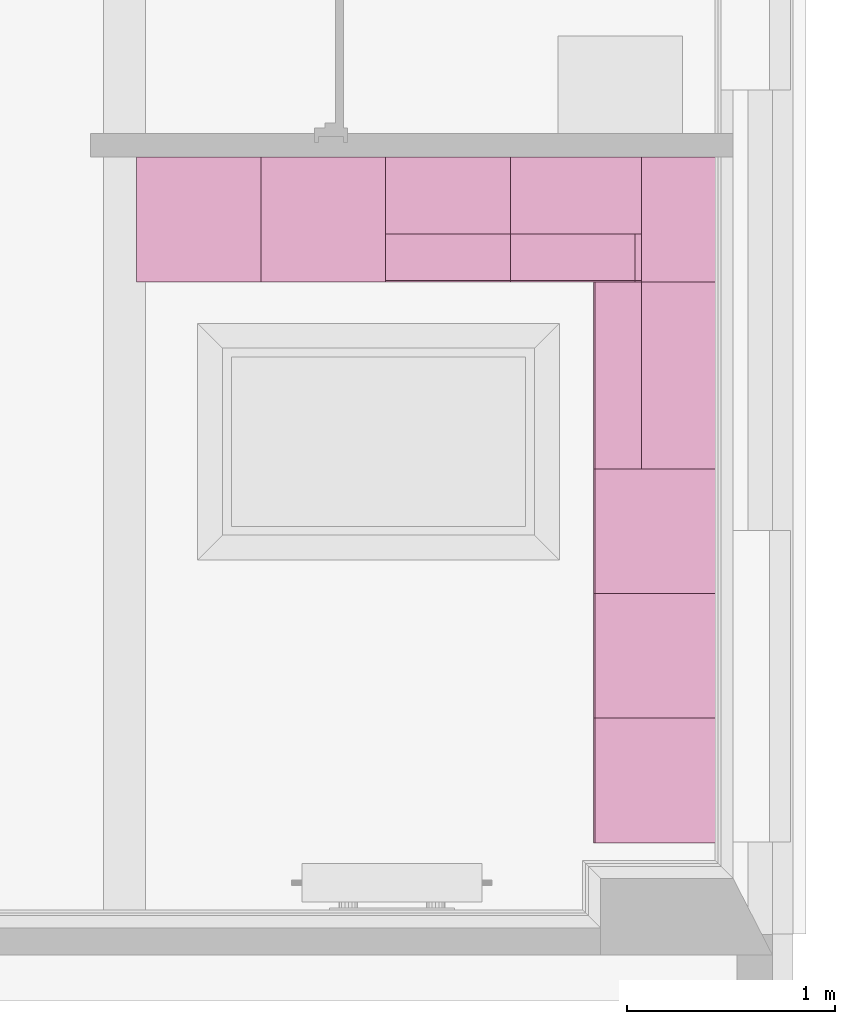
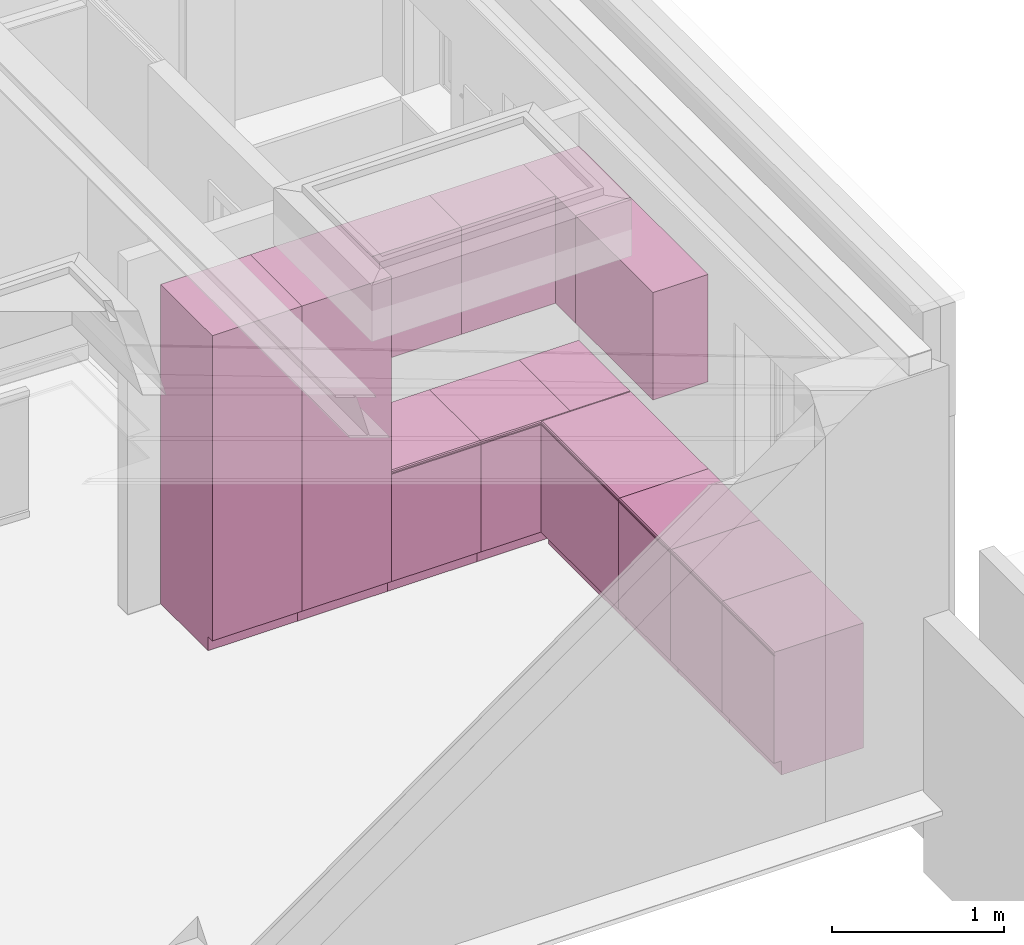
# One storey, part 23 of 23: 13 furnishings.
"""IFC2X3 building model written with IfcOpenShell, lengths in metres."""

import ifcopenshell
import ifcopenshell.guid

model = None  # the IFC model being written
_history = None  # IfcOwnerHistory: only IFC2X3 demands one
_inside = {}  # id of a spatial element -> (the spatial element, [elements in it])
_under = {}  # id of a project, library or spatial element -> (it, [spatial elements below it])
_declared = {}  # id of a project -> (the project, [libraries it declares])
_typed = {}  # id of a type object -> (the type object, [elements of that type])
_made_of = {}  # id of a material, layer set ... -> (it, [elements and type objects made of it])


def new_model(schema):
    """Start an empty IFC model of exactly this schema.

    Asked for "IFC4X3", IfcOpenShell would pick the latest addendum, in which some entities
    have other attributes; the version numbers below select the first issue.
    IFC2X3 requires an IfcOwnerHistory on every rooted entity: one is made here for all.
    """
    global model, _history
    if schema == "IFC4X3":
        model = ifcopenshell.file(schema_version=(4, 3, 0, 0))
    else:
        model = ifcopenshell.file(schema=schema)
    _inside.clear()
    _under.clear()
    _declared.clear()
    _typed.clear()
    _made_of.clear()
    _history = None
    if model.schema == "IFC2X3":
        org = make("IfcOrganization", Name="unknown")
        user = make(
            "IfcPersonAndOrganization",
            ThePerson=make("IfcPerson", FamilyName="unknown"),
            TheOrganization=org,
        )
        app = make(
            "IfcApplication",
            ApplicationDeveloper=org,
            Version="unknown",
            ApplicationFullName="unknown",
            ApplicationIdentifier="unknown",
        )
        _history = make(
            "IfcOwnerHistory",
            OwningUser=user,
            OwningApplication=app,
            ChangeAction="ADDED",
            CreationDate=0,
        )
    return model


def make(cls, **values):
    """One entity of the class cls with the attributes given. An attribute that is None is left unset."""
    return model.create_entity(
        cls, **{name: value for name, value in values.items() if value is not None}
    )


def entity(cls, *values):
    """Any entity or typed value of the class cls, its attributes in the order of the schema. None: left unset."""
    e = model.create_entity(cls)
    for i, value in enumerate(values):
        if value is not None:
            e[i] = value
    return e


def rooted(cls, **values):
    """An entity with a GlobalId (a new one), such as an element, a storey or a relation."""
    return make(cls, GlobalId=ifcopenshell.guid.new(), OwnerHistory=_history, **values)


def si_unit(unit_type, name, prefix=None):
    """IfcSIUnit, for example si_unit("LENGTHUNIT", "METRE", prefix="MILLI")."""
    return make("IfcSIUnit", UnitType=unit_type, Prefix=prefix, Name=name)


def converted_unit(unit_type, name, factor, base, dimensions=None, offset=None):
    """IfcConversionBasedUnit, such as the inch: factor (a typed value) times the base unit."""
    return make(
        "IfcConversionBasedUnit"
        if offset is None
        else "IfcConversionBasedUnitWithOffset",
        ConversionOffset=offset,
        Dimensions=None
        if dimensions is None
        else entity("IfcDimensionalExponents", *dimensions),
        UnitType=unit_type,
        Name=name,
        ConversionFactor=make(
            "IfcMeasureWithUnit", ValueComponent=factor, UnitComponent=base
        ),
    )


def derived_unit(unit_type, elements):
    """IfcDerivedUnit: a product of units, each with its exponent."""
    return make(
        "IfcDerivedUnit",
        Elements=[
            make("IfcDerivedUnitElement", Unit=unit, Exponent=power)
            for unit, power in elements
        ],
        UnitType=unit_type,
    )


def money_unit(currency):
    """IfcMonetaryUnit."""
    return make("IfcMonetaryUnit", Currency=currency)


def assignment(units):
    """IfcUnitAssignment: the units of a project."""
    return None if units is None else make("IfcUnitAssignment", Units=units)


def point(xyz):
    """IfcCartesianPoint."""
    return None if xyz is None else make("IfcCartesianPoint", Coordinates=xyz)


def direction(xyz):
    """IfcDirection."""
    return None if xyz is None else make("IfcDirection", DirectionRatios=xyz)


def frame(location, z_axis=None, x_axis=None):
    """IfcAxis2Placement3D, a coordinate frame: its origin and axes. An axis left out is left unset."""
    return make(
        "IfcAxis2Placement3D",
        Location=point(location),
        Axis=direction(z_axis),
        RefDirection=direction(x_axis),
    )


def frame_2d(location, x_axis=None):
    """IfcAxis2Placement2D, a coordinate frame in the plane: its origin and x axis."""
    return make(
        "IfcAxis2Placement2D", Location=point(location), RefDirection=direction(x_axis)
    )


def origin_with_axes():
    """The frame at (0, 0, 0) with the z axis (0, 0, 1) and the x axis (1, 0, 0) written out."""
    return frame((0.0, 0.0, 0.0), z_axis=(0.0, 0.0, 1.0), x_axis=(1.0, 0.0, 0.0))


def place(relative_to, where):
    """IfcLocalPlacement: puts the frame where relative to a parent placement (None: the world)."""
    return make(
        "IfcLocalPlacement", PlacementRelTo=relative_to, RelativePlacement=where
    )


def context(
    kind, dimensions, precision=None, world=None, true_north=None, identifier=None
):
    """IfcGeometricRepresentationContext, for example the 3D "Model" context."""
    return make(
        "IfcGeometricRepresentationContext",
        ContextIdentifier=identifier,
        ContextType=kind,
        CoordinateSpaceDimension=dimensions,
        Precision=precision,
        WorldCoordinateSystem=world,
        TrueNorth=true_north,
    )


def subcontext(parent, identifier, kind, view, scale=None):
    """IfcGeometricRepresentationSubContext, for example "Body" below "Model"."""
    return make(
        "IfcGeometricRepresentationSubContext",
        ContextIdentifier=identifier,
        ContextType=kind,
        ParentContext=parent,
        TargetScale=scale,
        TargetView=view,
    )


def project(units=None, contexts=None):
    """IfcProject with its units and contexts."""
    return rooted(
        "IfcProject",
        Name="project",
        RepresentationContexts=contexts,
        UnitsInContext=assignment(units),
    )


def spatial(cls, under=None, at=None, **own):
    """A site, building, storey or space (cls), placed at a placement, below another one or the project."""
    s = rooted(cls, ObjectPlacement=at, **own)
    if under is not None:
        _under.setdefault(under.id(), (under, []))[1].append(s)
    return s


def profile(cls, at=None, kind="AREA", **sizes):
    """A parametric profile (cls). Its sizes go by their IFC names, for example OverallWidth=200.0."""
    return make(cls, ProfileType=kind, Position=at, **sizes)


def rectangle(**sizes):
    """IfcRectangleProfileDef."""
    return profile("IfcRectangleProfileDef", **sizes)


def extrude(swept, where, along, depth):
    """IfcExtrudedAreaSolid: the profile swept, set in the frame where, extruded along a direction by depth."""
    return make(
        "IfcExtrudedAreaSolid",
        SweptArea=swept,
        Position=where,
        ExtrudedDirection=direction(along),
        Depth=depth,
    )


def faces_of(points, faces, orient=None, outer=None):
    """IfcFace entities. A face is a list of loops; a loop is a list of indices into points, from 0.

    orient and outer hold one flag for each loop. By default every Orientation is true, the
    first loop of a face is its IfcFaceOuterBound and the others are IfcFaceBound.
    """
    made = []
    for i, loops in enumerate(faces):
        bounds = []
        for j, loop in enumerate(loops):
            is_outer = j == 0 if outer is None else outer[i][j]
            bounds.append(
                make(
                    "IfcFaceOuterBound" if is_outer else "IfcFaceBound",
                    Bound=make("IfcPolyLoop", Polygon=[points[k] for k in loop]),
                    Orientation=True if orient is None else orient[i][j],
                )
            )
        made.append(make("IfcFace", Bounds=bounds))
    return made


def faceted_brep(points, faces, orient=None, outer=None, voids=None):
    """IfcFacetedBrep: a solid bounded by flat faces; with voids (closed shells), ...WithVoids."""
    shared = [point(p) for p in points]
    hull = make("IfcClosedShell", CfsFaces=faces_of(shared, faces, orient, outer))
    if voids is None:
        return make("IfcFacetedBrep", Outer=hull)
    return make(
        "IfcFacetedBrepWithVoids",
        Outer=hull,
        Voids=[
            make(cls, CfsFaces=faces_of(shared, fs, o, b)) for cls, fs, o, b in voids
        ],
    )


def shape(context_of_items, identifier, shape_type, items):
    """IfcShapeRepresentation: the items that make up one representation, for example the "Body"."""
    return make(
        "IfcShapeRepresentation",
        ContextOfItems=context_of_items,
        RepresentationIdentifier=identifier,
        RepresentationType=shape_type,
        Items=items,
    )


def material(Name=None, Category=None):
    """IfcMaterial."""
    return make("IfcMaterial", Name=Name, Category=Category)


def made_of(thing, what):
    """Note that an element or type object is made of a material, layer set ...; save() writes the relation."""
    if what is not None:
        _made_of.setdefault(what.id(), (what, []))[1].append(thing)
    return thing


def type_object(cls, material=None, **own):
    """A type object (cls), such as IfcWallType, which elements share."""
    return made_of(rooted(cls, **own), material)


def element(
    cls,
    number,
    at=None,
    inside=None,
    cuts=None,
    type_object=None,
    material=None,
    context=None,
    identifier="Body",
    shape_type=None,
    held_by="IfcProductDefinitionShape",
    body=None,
    shapes=None,
    **own,
):
    """One element of the class cls, such as IfcWall. Its Tag is "e" and its number.

    at: its placement. inside: the storey or other place that contains it. cuts: it is an
    opening in that element (IfcRelVoidsElement). A single representation is given by context,
    identifier, shape_type and body (its items); several are given by shapes. held_by: the class
    of the entity that holds the representations. save() writes the other relations.
    """
    e = rooted(cls, Tag="e%d" % number, ObjectPlacement=at, **own)
    if body is not None:
        shapes = [shape(context, identifier, shape_type, body)]
    if shapes is not None:
        e.Representation = make(held_by, Representations=shapes)
    if inside is not None:
        _inside.setdefault(inside.id(), (inside, []))[1].append(e)
    if cuts is not None:
        rooted(
            "IfcRelVoidsElement", RelatingBuildingElement=cuts, RelatedOpeningElement=e
        )
    if type_object is not None:
        _typed.setdefault(type_object.id(), (type_object, []))[1].append(e)
    return made_of(e, material)


def aggregate(whole, parts):
    """IfcRelAggregates: a whole, such as a stair, and the parts it consists of."""
    return rooted("IfcRelAggregates", RelatingObject=whole, RelatedObjects=parts)


def save(model, path):
    """Write the relations noted so far, then the file.

    IfcRelAggregates (storeys below a building ...), IfcRelContainedInSpatialStructure (elements
    in a storey), IfcRelDefinesByType, IfcRelAssociatesMaterial and IfcRelDeclares: one each for
    every whole, place, type object, material and project.
    """
    for whole, parts in _under.values():
        aggregate(whole, parts)
    for where, things in _inside.values():
        rooted(
            "IfcRelContainedInSpatialStructure",
            RelatedElements=things,
            RelatingStructure=where,
        )
    for kind, things in _typed.values():
        rooted("IfcRelDefinesByType", RelatedObjects=things, RelatingType=kind)
    for what, things in _made_of.values():
        rooted("IfcRelAssociatesMaterial", RelatedObjects=things, RelatingMaterial=what)
    for by, libraries in _declared.values():
        rooted("IfcRelDeclares", RelatingContext=by, RelatedDefinitions=libraries)
    model.write(path)


model = new_model("IFC2X3")

# Units and contexts
model_context = context("Model", 3, precision=1e-05, world=origin_with_axes(), true_north=direction((0.0, 1.0)))
body_context = subcontext(model_context, "Body", "Model", "MODEL_VIEW", scale=1.0)
ifc_project = project(units=[si_unit("LENGTHUNIT", "METRE"), si_unit("AREAUNIT", "SQUARE_METRE"), si_unit("VOLUMEUNIT", "CUBIC_METRE"), si_unit("ABSORBEDDOSEUNIT", "GRAY"), si_unit("AMOUNTOFSUBSTANCEUNIT", "MOLE"), si_unit("DOSEEQUIVALENTUNIT", "SIEVERT"), si_unit("ELECTRICCAPACITANCEUNIT", "FARAD"), si_unit("ELECTRICCHARGEUNIT", "COULOMB"), si_unit("ELECTRICCONDUCTANCEUNIT", "SIEMENS"), si_unit("ELECTRICCURRENTUNIT", "AMPERE"), si_unit("ELECTRICRESISTANCEUNIT", "OHM"), si_unit("ELECTRICVOLTAGEUNIT", "VOLT"), si_unit("ENERGYUNIT", "JOULE"), si_unit("FORCEUNIT", "NEWTON"), si_unit("FREQUENCYUNIT", "HERTZ"), si_unit("ILLUMINANCEUNIT", "LUX"), si_unit("INDUCTANCEUNIT", "HENRY"), si_unit("LUMINOUSFLUXUNIT", "LUMEN"), si_unit("LUMINOUSINTENSITYUNIT", "CANDELA"), si_unit("MAGNETICFLUXDENSITYUNIT", "TESLA"), si_unit("MAGNETICFLUXUNIT", "WEBER"), si_unit("MASSUNIT", "GRAM"), converted_unit("PLANEANGLEUNIT", "degree", entity("IfcReal", 0.0174532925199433), si_unit("PLANEANGLEUNIT", "RADIAN"), dimensions=[0, 0, 0, 0, 0, 0, 0]), si_unit("POWERUNIT", "WATT"), si_unit("PRESSUREUNIT", "PASCAL"), si_unit("RADIOACTIVITYUNIT", "BECQUEREL"), si_unit("SOLIDANGLEUNIT", "STERADIAN"), si_unit("THERMODYNAMICTEMPERATUREUNIT", "KELVIN"), si_unit("TIMEUNIT", "SECOND"), derived_unit("ACCELERATIONUNIT", [(si_unit("LENGTHUNIT", "METRE"), 1), (si_unit("TIMEUNIT", "SECOND"), -2)]), derived_unit("ANGULARVELOCITYUNIT", [(converted_unit("PLANEANGLEUNIT", "degree", entity("IfcReal", 0.0174532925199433), si_unit("PLANEANGLEUNIT", "RADIAN"), dimensions=[0, 0, 0, 0, 0, 0, 0]), 1), (si_unit("TIMEUNIT", "SECOND"), -1)]), derived_unit("CURVATUREUNIT", [(converted_unit("PLANEANGLEUNIT", "degree", entity("IfcReal", 0.0174532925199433), si_unit("PLANEANGLEUNIT", "RADIAN"), dimensions=[0, 0, 0, 0, 0, 0, 0]), 1), (si_unit("LENGTHUNIT", "METRE"), -1)]), derived_unit("DYNAMICVISCOSITYUNIT", [(si_unit("PRESSUREUNIT", "PASCAL"), 1), (si_unit("TIMEUNIT", "SECOND"), 1)]), derived_unit("HEATFLUXDENSITYUNIT", [(si_unit("POWERUNIT", "WATT"), 1), (si_unit("LENGTHUNIT", "METRE"), -2)]), derived_unit("HEATINGVALUEUNIT", [(si_unit("ENERGYUNIT", "JOULE"), 1), (si_unit("MASSUNIT", "GRAM"), -1)]), derived_unit("INTEGERCOUNTRATEUNIT", [(si_unit("TIMEUNIT", "SECOND"), -1)]), derived_unit("IONCONCENTRATIONUNIT", [(si_unit("MASSUNIT", "GRAM"), 1), (si_unit("VOLUMEUNIT", "CUBIC_METRE"), -1)]), derived_unit("ISOTHERMALMOISTURECAPACITYUNIT", [(si_unit("VOLUMEUNIT", "CUBIC_METRE"), 1), (si_unit("MASSUNIT", "GRAM"), -1)]), derived_unit("KINEMATICVISCOSITYUNIT", [(si_unit("AREAUNIT", "SQUARE_METRE"), 1), (si_unit("TIMEUNIT", "SECOND"), -1)]), derived_unit("LINEARFORCEUNIT", [(si_unit("FORCEUNIT", "NEWTON"), 1), (si_unit("LENGTHUNIT", "METRE"), -1)]), derived_unit("LINEARMOMENTUNIT", [(si_unit("FORCEUNIT", "NEWTON"), 1), (si_unit("LENGTHUNIT", "METRE"), -1)]), derived_unit("LINEARSTIFFNESSUNIT", [(si_unit("FORCEUNIT", "NEWTON"), 1), (si_unit("LENGTHUNIT", "METRE"), -1)]), derived_unit("LINEARVELOCITYUNIT", [(si_unit("LENGTHUNIT", "METRE"), 1), (si_unit("TIMEUNIT", "SECOND"), -1)]), derived_unit("LUMINOUSINTENSITYDISTRIBUTIONUNIT", [(si_unit("LUMINOUSINTENSITYUNIT", "CANDELA"), 1), (si_unit("LUMINOUSFLUXUNIT", "LUMEN"), -1)]), derived_unit("MASSDENSITYUNIT", [(si_unit("MASSUNIT", "GRAM"), 1), (si_unit("VOLUMEUNIT", "CUBIC_METRE"), -1)]), derived_unit("MASSFLOWRATEUNIT", [(si_unit("MASSUNIT", "GRAM"), 1), (si_unit("TIMEUNIT", "SECOND"), -1)]), derived_unit("MASSPERLENGTHUNIT", [(si_unit("MASSUNIT", "GRAM"), 1), (si_unit("LENGTHUNIT", "METRE"), -1)]), derived_unit("MODULUSOFELASTICITYUNIT", [(si_unit("FORCEUNIT", "NEWTON"), 1), (si_unit("AREAUNIT", "SQUARE_METRE"), -1)]), derived_unit("MODULUSOFLINEARSUBGRADEREACTIONUNIT", [(si_unit("FORCEUNIT", "NEWTON"), 1), (si_unit("LENGTHUNIT", "METRE"), -2)]), derived_unit("MODULUSOFROTATIONALSUBGRADEREACTIONUNIT", [(si_unit("FORCEUNIT", "NEWTON"), 1), (si_unit("LENGTHUNIT", "METRE"), 1)]), derived_unit("MODULUSOFSUBGRADEREACTIONUNIT", [(si_unit("FORCEUNIT", "NEWTON"), 1), (si_unit("VOLUMEUNIT", "CUBIC_METRE"), -1)]), derived_unit("MOISTUREDIFFUSIVITYUNIT", [(si_unit("VOLUMEUNIT", "CUBIC_METRE"), 1), (si_unit("TIMEUNIT", "SECOND"), -1)]), derived_unit("MOLECULARWEIGHTUNIT", [(si_unit("MASSUNIT", "GRAM"), 1), (si_unit("AMOUNTOFSUBSTANCEUNIT", "MOLE"), -1)]), derived_unit("PLANARFORCEUNIT", [(si_unit("FORCEUNIT", "NEWTON"), 1), (si_unit("LENGTHUNIT", "METRE"), -2)]), derived_unit("ROTATIONALFREQUENCYUNIT", [(si_unit("TIMEUNIT", "SECOND"), -1)]), derived_unit("ROTATIONALMASSUNIT", [(si_unit("MASSUNIT", "GRAM"), 1), (si_unit("LENGTHUNIT", "METRE"), 2)]), derived_unit("ROTATIONALSTIFFNESSUNIT", [(si_unit("FORCEUNIT", "NEWTON"), 1), (si_unit("LENGTHUNIT", "METRE"), 1), (converted_unit("PLANEANGLEUNIT", "degree", entity("IfcReal", 0.0174532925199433), si_unit("PLANEANGLEUNIT", "RADIAN"), dimensions=[0, 0, 0, 0, 0, 0, 0]), -1)]), derived_unit("SECTIONAREAINTEGRALUNIT", [(si_unit("LENGTHUNIT", "METRE"), 5)]), derived_unit("SECTIONMODULUSUNIT", [(si_unit("LENGTHUNIT", "METRE"), 3)]), derived_unit("SHEARMODULUSUNIT", [(si_unit("FORCEUNIT", "NEWTON"), 1), (si_unit("AREAUNIT", "SQUARE_METRE"), -1)]), derived_unit("SOUNDPOWERUNIT", [(si_unit("ENERGYUNIT", "JOULE"), 1), (si_unit("TIMEUNIT", "SECOND"), -1)]), derived_unit("SPECIFICHEATCAPACITYUNIT", [(si_unit("FORCEUNIT", "NEWTON"), 1), (si_unit("MASSUNIT", "GRAM"), -1), (si_unit("THERMODYNAMICTEMPERATUREUNIT", "KELVIN"), -1)]), derived_unit("TEMPERATUREGRADIENTUNIT", [(si_unit("THERMODYNAMICTEMPERATUREUNIT", "KELVIN"), 1), (si_unit("LENGTHUNIT", "METRE"), -1)]), derived_unit("THERMALADMITTANCEUNIT", [(si_unit("POWERUNIT", "WATT"), 1), (si_unit("AREAUNIT", "SQUARE_METRE"), -1), (si_unit("THERMODYNAMICTEMPERATUREUNIT", "KELVIN"), -1)]), derived_unit("THERMALCONDUCTANCEUNIT", [(si_unit("POWERUNIT", "WATT"), 1), (si_unit("LENGTHUNIT", "METRE"), -1), (si_unit("THERMODYNAMICTEMPERATUREUNIT", "KELVIN"), -1)]), derived_unit("THERMALEXPANSIONCOEFFICIENTUNIT", [(si_unit("THERMODYNAMICTEMPERATUREUNIT", "KELVIN"), -1)]), derived_unit("THERMALRESISTANCEUNIT", [(si_unit("AREAUNIT", "SQUARE_METRE"), 1), (si_unit("POWERUNIT", "WATT"), -1)]), derived_unit("THERMALTRANSMITTANCEUNIT", [(si_unit("POWERUNIT", "WATT"), 1), (si_unit("AREAUNIT", "SQUARE_METRE"), -1), (si_unit("THERMODYNAMICTEMPERATUREUNIT", "KELVIN"), -1)]), derived_unit("TORQUEUNIT", [(si_unit("FORCEUNIT", "NEWTON"), 1), (si_unit("LENGTHUNIT", "METRE"), 1)]), derived_unit("VAPORPERMEABILITYUNIT", [(si_unit("MASSUNIT", "GRAM"), 1), (si_unit("TIMEUNIT", "SECOND"), -1)]), derived_unit("VOLUMETRICFLOWRATEUNIT", [(si_unit("VOLUMEUNIT", "CUBIC_METRE"), 1), (si_unit("TIMEUNIT", "SECOND"), -1)]), derived_unit("WARPINGCONSTANTUNIT", [(si_unit("LENGTHUNIT", "METRE"), 6)]), derived_unit("WARPINGMOMENTUNIT", [(si_unit("FORCEUNIT", "NEWTON"), 1), (si_unit("LENGTHUNIT", "METRE"), 2)]), money_unit("GBP")], contexts=[model_context])

# Site, building, storey, space
site_placement = place(None, origin_with_axes())
site = spatial("IfcSite", under=ifc_project, at=site_placement, Name="Site", CompositionType="ELEMENT")
building_placement = place(site_placement, origin_with_axes())
building = spatial("IfcBuilding", under=site, at=building_placement, Name="Building01", CompositionType="ELEMENT")
storey_placement = place(building_placement, frame((0.0, 0.0, 2.6), z_axis=(0.0, 0.0, 1.0), x_axis=(1.0, 0.0, 0.0)))
storey = spatial("IfcBuildingStorey", under=building, at=storey_placement, Name="MF", CompositionType="ELEMENT", Elevation=2.6)
space_1_placement = place(storey_placement, frame((0.352897, 21.240404, 0.585), z_axis=(0.0, 0.0, 1.0), x_axis=(-1.921e-05, -1.0, 0.0)))
space_1 = spatial("IfcSpace", under=storey, at=space_1_placement, Name="01", CompositionType="ELEMENT", InteriorOrExteriorSpace="NOTDEFINED")

# Furnishings
ifc_material = material(Name="A_BSUK_StorageScreening_Ffe")
furniture_type_1 = type_object("IfcFurnitureType", Name="SHE_A-Kitchenunit-Tall")
placement = place(storey_placement, frame((0.0, 0.0, -2.6), z_axis=(0.0, 0.0, 1.0), x_axis=(1.0, 0.0, 0.0)))
element("IfcFurnishingElement", 1, at=placement, inside=space_1, type_object=furniture_type_1, material=ifc_material, Name="01", ObjectType="SHE_A-Kitchenunit-Tall", context=body_context, shape_type="Brep", body=[
    faceted_brep([(6.882265, 18.639607, 5.445), (7.482265, 18.639607, 5.445), (7.482265, 18.639607, 3.185), (6.882265, 18.639607, 3.185), (7.482265, 18.039607, 5.445), (7.482265, 18.039607, 3.285), (7.482265, 18.089607, 3.285), (7.482265, 18.089607, 3.185), (6.882265, 18.089607, 3.285), (6.882265, 18.089607, 3.185), (6.882265, 18.039607, 3.285), (6.882265, 18.039607, 5.445)], [[[0, 1, 2, 3]], [[1, 4, 5, 6, 7, 2]], [[8, 9, 7, 6]], [[8, 10, 11, 0, 3, 9]], [[2, 7, 9, 3]], [[5, 4, 11, 10]], [[11, 4, 1, 0]], [[6, 5, 10, 8]]]),
])
element("IfcFurnishingElement", 2, at=placement, inside=space_1, type_object=furniture_type_1, material=ifc_material, Name="01", ObjectType="SHE_A-Kitchenunit-Tall", context=body_context, shape_type="Brep", body=[
    faceted_brep([(6.282265, 18.639607, 5.445), (6.882265, 18.639607, 5.445), (6.882265, 18.639607, 3.185), (6.282265, 18.639607, 3.185), (6.882265, 18.039607, 5.445), (6.882265, 18.039607, 3.285), (6.882265, 18.089607, 3.285), (6.882265, 18.089607, 3.185), (6.282265, 18.089607, 3.285), (6.282265, 18.089607, 3.185), (6.282265, 18.039607, 3.285), (6.282265, 18.039607, 5.445)], [[[0, 1, 2, 3]], [[1, 4, 5, 6, 7, 2]], [[8, 9, 7, 6]], [[8, 10, 11, 0, 3, 9]], [[2, 7, 9, 3]], [[5, 4, 11, 10]], [[11, 4, 1, 0]], [[6, 5, 10, 8]]]),
])
furniture_type_2 = type_object("IfcFurnitureType", Name="SHE_A-Kitchenunit-Base")
element("IfcFurnishingElement", 3, at=placement, inside=space_1, type_object=furniture_type_2, material=ifc_material, Name="01", ObjectType="SHE_A-Kitchenunit-Base", context=body_context, shape_type="Brep", body=[
    faceted_brep([(8.682265, 18.639607, 4.07), (9.082265, 18.639607, 4.07), (9.082265, 18.639607, 3.185), (8.682265, 18.639607, 3.185), (9.082265, 18.046678, 4.07), (9.082265, 18.039607, 4.062929), (9.082265, 18.039607, 4.052071), (9.082265, 18.046678, 4.045), (9.082265, 18.039607, 4.045), (9.082265, 18.039607, 3.285), (9.082265, 18.089607, 3.285), (9.082265, 18.089607, 3.185), (8.682265, 18.089607, 3.285), (8.682265, 18.089607, 3.185), (8.682265, 18.039607, 3.285), (8.682265, 18.039607, 4.045), (8.682265, 18.046678, 4.045), (8.682265, 18.039607, 4.052071), (8.682265, 18.039607, 4.062929), (8.682265, 18.046678, 4.07)], [[[0, 1, 2, 3]], [[1, 4, 5, 6, 7, 8, 9, 10, 11, 2]], [[12, 13, 11, 10]], [[12, 14, 15, 16, 17, 18, 19, 0, 3, 13]], [[2, 11, 13, 3]], [[7, 16, 15, 8]], [[9, 8, 15, 14]], [[10, 9, 14, 12]], [[5, 18, 17, 6]], [[19, 4, 1, 0]], [[6, 17, 16, 7]], [[4, 19, 18, 5]]]),
])
element("IfcFurnishingElement", 4, at=placement, inside=space_1, type_object=furniture_type_2, material=ifc_material, Name="01", ObjectType="SHE_A-Kitchenunit-Base", context=body_context, shape_type="Brep", body=[
    faceted_brep([(7.482265, 18.639607, 4.07), (8.082265, 18.639607, 4.07), (8.082265, 18.639607, 3.185), (7.482265, 18.639607, 3.185), (8.082265, 18.046678, 4.07), (8.082265, 18.039607, 4.062929), (8.082265, 18.039607, 4.052071), (8.082265, 18.046678, 4.045), (8.082265, 18.039607, 4.045), (8.082265, 18.039607, 3.285), (8.082265, 18.089607, 3.285), (8.082265, 18.089607, 3.185), (7.482265, 18.089607, 3.285), (7.482265, 18.089607, 3.185), (7.482265, 18.039607, 3.285), (7.482265, 18.039607, 4.045), (7.482265, 18.046678, 4.045), (7.482265, 18.039607, 4.052071), (7.482265, 18.039607, 4.062929), (7.482265, 18.046678, 4.07)], [[[0, 1, 2, 3]], [[1, 4, 5, 6, 7, 8, 9, 10, 11, 2]], [[12, 13, 11, 10]], [[12, 14, 15, 16, 17, 18, 19, 0, 3, 13]], [[2, 11, 13, 3]], [[7, 16, 15, 8]], [[9, 8, 15, 14]], [[10, 9, 14, 12]], [[5, 18, 17, 6]], [[19, 4, 1, 0]], [[6, 17, 16, 7]], [[4, 19, 18, 5]]]),
])
element("IfcFurnishingElement", 5, at=placement, inside=space_1, type_object=furniture_type_2, material=ifc_material, Name="01", ObjectType="SHE_A-Kitchenunit-Base", context=body_context, shape_type="Brep", body=[
    faceted_brep([(9.082265, 17.139607, 4.07), (9.082265, 16.539607, 4.07), (9.082265, 16.539607, 3.185), (9.082265, 17.139607, 3.185), (8.489336, 16.539607, 4.07), (8.482265, 16.539607, 4.062929), (8.482265, 16.539607, 4.052071), (8.489336, 16.539607, 4.045), (8.482265, 16.539607, 4.045), (8.482265, 16.539607, 3.285), (8.532265, 16.539607, 3.285), (8.532265, 16.539607, 3.185), (8.532265, 17.139607, 3.285), (8.532265, 17.139607, 3.185), (8.482265, 17.139607, 3.285), (8.482265, 17.139607, 4.045), (8.489336, 17.139607, 4.045), (8.482265, 17.139607, 4.052071), (8.482265, 17.139607, 4.062929), (8.489336, 17.139607, 4.07)], [[[0, 1, 2, 3]], [[1, 4, 5, 6, 7, 8, 9, 10, 11, 2]], [[12, 13, 11, 10]], [[12, 14, 15, 16, 17, 18, 19, 0, 3, 13]], [[2, 11, 13, 3]], [[7, 16, 15, 8]], [[9, 8, 15, 14]], [[10, 9, 14, 12]], [[5, 18, 17, 6]], [[19, 4, 1, 0]], [[6, 17, 16, 7]], [[4, 19, 18, 5]]]),
])
element("IfcFurnishingElement", 6, at=placement, inside=space_1, type_object=furniture_type_2, material=ifc_material, Name="01", ObjectType="SHE_A-Kitchenunit-Base", context=body_context, shape_type="Brep", body=[
    faceted_brep([(9.082265, 16.539607, 4.07), (9.082265, 15.939607, 4.07), (9.082265, 15.939607, 3.185), (9.082265, 16.539607, 3.185), (8.489336, 15.939607, 4.07), (8.482265, 15.939607, 4.062929), (8.482265, 15.939607, 4.052071), (8.489336, 15.939607, 4.045), (8.482265, 15.939607, 4.045), (8.482265, 15.939607, 3.285), (8.532265, 15.939607, 3.285), (8.532265, 15.939607, 3.185), (8.532265, 16.539607, 3.285), (8.532265, 16.539607, 3.185), (8.482265, 16.539607, 3.285), (8.482265, 16.539607, 4.045), (8.489336, 16.539607, 4.045), (8.482265, 16.539607, 4.052071), (8.482265, 16.539607, 4.062929), (8.489336, 16.539607, 4.07)], [[[0, 1, 2, 3]], [[1, 4, 5, 6, 7, 8, 9, 10, 11, 2]], [[12, 13, 11, 10]], [[12, 14, 15, 16, 17, 18, 19, 0, 3, 13]], [[2, 11, 13, 3]], [[7, 16, 15, 8]], [[9, 8, 15, 14]], [[10, 9, 14, 12]], [[5, 18, 17, 6]], [[19, 4, 1, 0]], [[6, 17, 16, 7]], [[4, 19, 18, 5]]]),
])
element("IfcFurnishingElement", 7, at=placement, inside=space_1, type_object=furniture_type_2, material=ifc_material, Name="01", ObjectType="SHE_A-Kitchenunit-Base", context=body_context, shape_type="Brep", body=[
    faceted_brep([(8.082265, 18.639607, 4.07), (8.682265, 18.639607, 4.07), (8.682265, 18.639607, 3.185), (8.082265, 18.639607, 3.185), (8.682265, 18.046678, 4.07), (8.682265, 18.039607, 4.062929), (8.682265, 18.039607, 4.052071), (8.682265, 18.046678, 4.045), (8.682265, 18.039607, 4.045), (8.682265, 18.039607, 3.285), (8.682265, 18.089607, 3.285), (8.682265, 18.089607, 3.185), (8.082265, 18.089607, 3.285), (8.082265, 18.089607, 3.185), (8.082265, 18.039607, 3.285), (8.082265, 18.039607, 4.045), (8.082265, 18.046678, 4.045), (8.082265, 18.039607, 4.052071), (8.082265, 18.039607, 4.062929), (8.082265, 18.046678, 4.07)], [[[0, 1, 2, 3]], [[1, 4, 5, 6, 7, 8, 9, 10, 11, 2]], [[12, 13, 11, 10]], [[12, 14, 15, 16, 17, 18, 19, 0, 3, 13]], [[2, 11, 13, 3]], [[7, 16, 15, 8]], [[9, 8, 15, 14]], [[10, 9, 14, 12]], [[5, 18, 17, 6]], [[19, 4, 1, 0]], [[6, 17, 16, 7]], [[4, 19, 18, 5]]]),
])
element("IfcFurnishingElement", 8, at=placement, inside=space_1, type_object=furniture_type_2, material=ifc_material, Name="01", ObjectType="SHE_A-Kitchenunit-Base", context=body_context, shape_type="Brep", body=[
    faceted_brep([(9.082265, 15.939607, 4.07), (9.082265, 15.339607, 4.07), (9.082265, 15.339607, 3.185), (9.082265, 15.939607, 3.185), (8.489336, 15.339607, 4.07), (8.482265, 15.339607, 4.062929), (8.482265, 15.339607, 4.052071), (8.489336, 15.339607, 4.045), (8.482265, 15.339607, 4.045), (8.482265, 15.339607, 3.285), (8.532265, 15.339607, 3.285), (8.532265, 15.339607, 3.185), (8.532265, 15.939607, 3.285), (8.532265, 15.939607, 3.185), (8.482265, 15.939607, 3.285), (8.482265, 15.939607, 4.045), (8.489336, 15.939607, 4.045), (8.482265, 15.939607, 4.052071), (8.482265, 15.939607, 4.062929), (8.489336, 15.939607, 4.07)], [[[0, 1, 2, 3]], [[1, 4, 5, 6, 7, 8, 9, 10, 11, 2]], [[12, 13, 11, 10]], [[12, 14, 15, 16, 17, 18, 19, 0, 3, 13]], [[2, 11, 13, 3]], [[7, 16, 15, 8]], [[9, 8, 15, 14]], [[10, 9, 14, 12]], [[5, 18, 17, 6]], [[19, 4, 1, 0]], [[6, 17, 16, 7]], [[4, 19, 18, 5]]]),
])

# Space
space_2_placement = place(storey_placement, frame((3.137414, 15.705689, 0.606989), z_axis=(0.0, 0.0, 1.0), x_axis=(0.0, -1.0, 0.0)))
space_2 = spatial("IfcSpace", under=storey, at=space_2_placement, Name="k/d/l", CompositionType="ELEMENT", InteriorOrExteriorSpace="NOTDEFINED")

# Furnishings
furniture_type_3 = type_object("IfcFurnitureType", Name="SHE_A-Kitchenunit-Wall")
furnishing_9_placement = place(storey_placement, frame((8.082265, 18.639607, 2.085), z_axis=(0.0, 0.0, 1.0), x_axis=(1.0, 0.0, 0.0)))
element("IfcFurnishingElement", 9, at=furnishing_9_placement, inside=space_2, type_object=furniture_type_3, Name="01", ObjectType="SHE_A-Kitchenunit-Wall", context=body_context, shape_type="SweptSolid", body=[
    extrude(rectangle(XDim=0.37, YDim=0.63, at=frame_2d((0.315, -0.185), x_axis=(0.0, -1.0))), origin_with_axes(), (0.0, 0.0, 1.0), 0.76),
])
furnishing_10_placement = place(storey_placement, frame((7.482265, 18.639607, 2.085), z_axis=(0.0, 0.0, 1.0), x_axis=(1.0, 0.0, 0.0)))
element("IfcFurnishingElement", 10, at=furnishing_10_placement, inside=space_1, type_object=furniture_type_3, Name="01", ObjectType="SHE_A-Kitchenunit-Wall", context=body_context, shape_type="SweptSolid", body=[
    extrude(rectangle(XDim=0.37, YDim=0.6, at=frame_2d((0.3, -0.185), x_axis=(0.0, -1.0))), origin_with_axes(), (0.0, 0.0, 1.0), 0.76),
])
furniture_type_4 = type_object("IfcFurnitureType", Name="SHE_A-Kitchenunit-Base60x90")
element("IfcFurnishingElement", 11, at=placement, inside=space_1, type_object=furniture_type_4, material=ifc_material, Name="01", ObjectType="SHE_A-Kitchenunit-Base60x90", context=body_context, shape_type="Brep", body=[
    faceted_brep([(9.082265, 18.039607, 4.07), (9.082265, 17.139607, 4.07), (9.082265, 17.139607, 3.185), (9.082265, 18.039607, 3.185), (8.489336, 17.139607, 4.07), (8.482265, 17.139607, 4.062929), (8.482265, 17.139607, 4.052071), (8.489336, 17.139607, 4.045), (8.482265, 17.139607, 4.045), (8.482265, 17.139607, 3.285), (8.532265, 17.139607, 3.285), (8.532265, 17.139607, 3.185), (8.532265, 18.039607, 3.285), (8.532265, 18.039607, 3.185), (8.482265, 18.039607, 3.285), (8.482265, 18.039607, 4.045), (8.489336, 18.039607, 4.045), (8.482265, 18.039607, 4.052071), (8.482265, 18.039607, 4.062929), (8.489336, 18.039607, 4.07)], [[[0, 1, 2, 3]], [[1, 4, 5, 6, 7, 8, 9, 10, 11, 2]], [[12, 13, 11, 10]], [[12, 14, 15, 16, 17, 18, 19, 0, 3, 13]], [[2, 11, 13, 3]], [[7, 16, 15, 8]], [[9, 8, 15, 14]], [[10, 9, 14, 12]], [[5, 18, 17, 6]], [[19, 4, 1, 0]], [[6, 17, 16, 7]], [[4, 19, 18, 5]]]),
])
furniture_type_5 = type_object("IfcFurnitureType", Name="SHE_A-Kitchenunit-Wall37x90")
furnishing_12_placement = place(storey_placement, frame((9.082265, 18.039607, 2.085), z_axis=(0.0, 0.0, 1.0), x_axis=(0.0, -1.0, 0.0)))
element("IfcFurnishingElement", 12, at=furnishing_12_placement, inside=space_1, type_object=furniture_type_5, Name="01", ObjectType="SHE_A-Kitchenunit-Wall37x90", context=body_context, shape_type="SweptSolid", body=[
    extrude(rectangle(XDim=0.37, YDim=0.9, at=frame_2d((0.45, -0.185), x_axis=(0.0, -1.0))), origin_with_axes(), (0.0, 0.0, 1.0), 0.76),
])
furnishing_13_placement = place(storey_placement, frame((9.082265, 18.639607, 2.085), z_axis=(0.0, 0.0, 1.0), x_axis=(0.0, -1.0, 0.0)))
element("IfcFurnishingElement", 13, at=furnishing_13_placement, inside=space_2, type_object=furniture_type_5, Name="01", ObjectType="SHE_A-Kitchenunit-Wall37x90", context=body_context, shape_type="SweptSolid", body=[
    extrude(rectangle(XDim=0.37, YDim=0.6, at=frame_2d((0.3, -0.185), x_axis=(0.0, -1.0))), origin_with_axes(), (0.0, 0.0, 1.0), 0.76),
])

save(model, "model.ifc")
